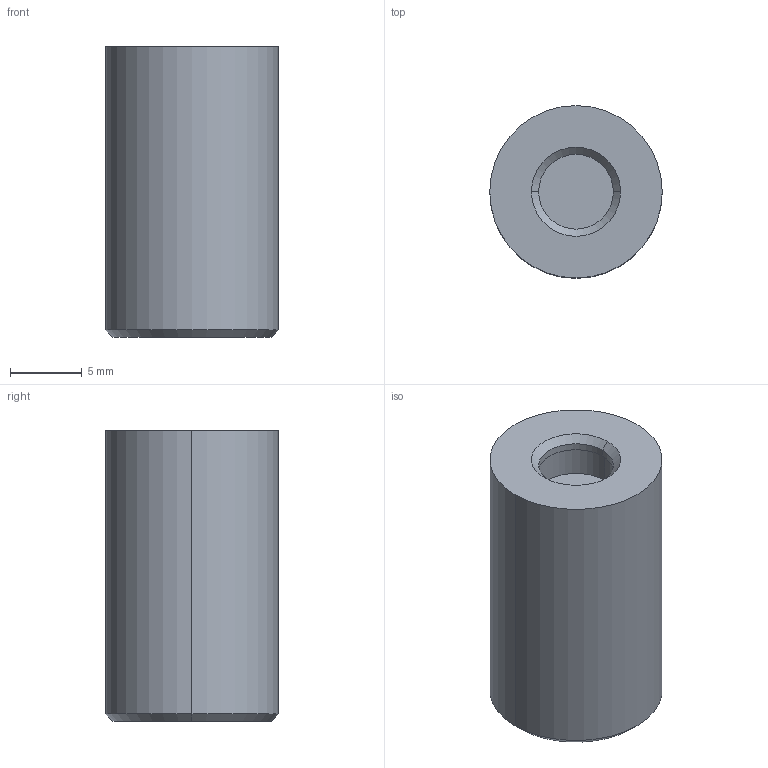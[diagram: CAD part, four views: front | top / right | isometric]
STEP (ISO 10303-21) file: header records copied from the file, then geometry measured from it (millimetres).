
FILE_DESCRIPTION(('CATIA V5 STEP Exchange'),'2;1');
FILE_NAME('G:\够快云库\系统集成开发部\1.部门成员\孙国\3D-stp打印件\1222\GZ-QM05_V1 封堵圆柱.stp','2020-12-22T07:18:41+00:00',('none'),('none'),'CATIA Version 5 Release 20 GA (IN-10)','CATIA V5 STEP AP203','none');
FILE_SCHEMA(('CONFIG_CONTROL_DESIGN'));
Length unit declared in the file: millimetre
Products named in the file (1): 封堵圆柱
Bounding box: 12 x 12 x 20.2 mm (x, y, z)
Volume: 1962.7 mm3; surface area: 1220.4 mm2
Topology: 1 solids, 1 shells, 19 faces, 36 edges, 22 vertices
Faces by surface type: cylinder 8, cone 6, plane 5
Entity records: 523 total; most frequent: CARTESIAN_POINT 117, ORIENTED_EDGE 72, DIRECTION 64, AXIS2_PLACEMENT_3D 36, EDGE_CURVE 36, EDGE_LOOP 22, VERTEX_POINT 22, CIRCLE 20
